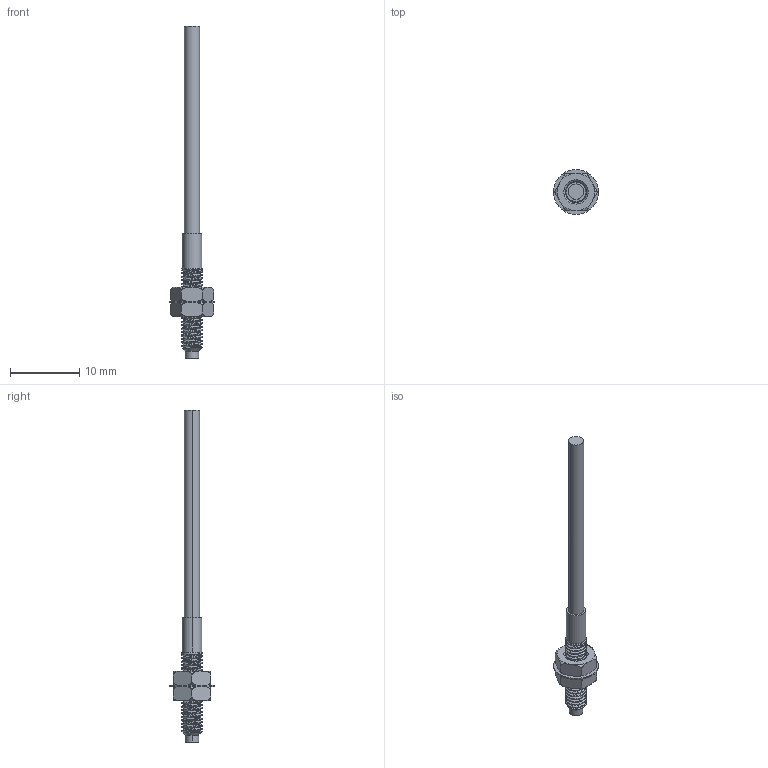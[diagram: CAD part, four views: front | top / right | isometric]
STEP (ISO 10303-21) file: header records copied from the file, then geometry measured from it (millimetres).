
FILE_DESCRIPTION (( 'STEP AP203' ), '1' );
FILE_NAME ('FDT-310_T.STEP', '2020-11-04T10:01:08', ( '' ), ( '' ), 'SwSTEP 2.0', 'SolidWorks 2020', '' );
FILE_SCHEMA (( 'CONFIG_CONTROL_DESIGN' ));
Length unit declared in the file: millimetre
Products named in the file (4): FDT-310_T; M3菜え____; M3蹟譫x2x2x2
Assembly tree (4 placements, depth 2):
  FDT-310_T
    FDT-310_T
    M3菜え____
    M3蹟譫x2x2x2  x2
Bounding box: 6.5 x 6.5 x 48 mm (x, y, z)
Volume: 297.9 mm3; surface area: 674.4 mm2
Topology: 4 solids, 4 shells, 153 faces, 813 edges, 671 vertices
Faces by surface type: cylinder 74, torus 28, plane 23, cone 17, bspline 11
Entity records: 16909 total; most frequent: CARTESIAN_POINT 11818, ORIENTED_EDGE 1448, EDGE_CURVE 724, VERTEX_POINT 617, B_SPLINE_CURVE_WITH_KNOTS 572, DIRECTION 427, AXIS2_PLACEMENT_3D 172, EDGE_LOOP 123
